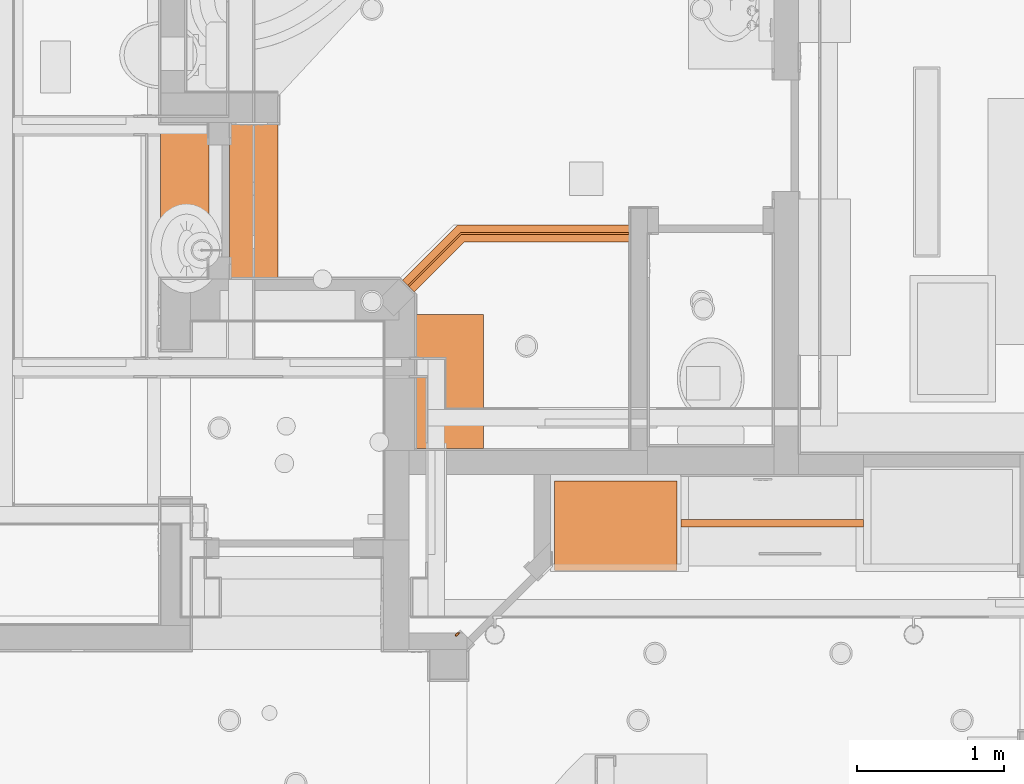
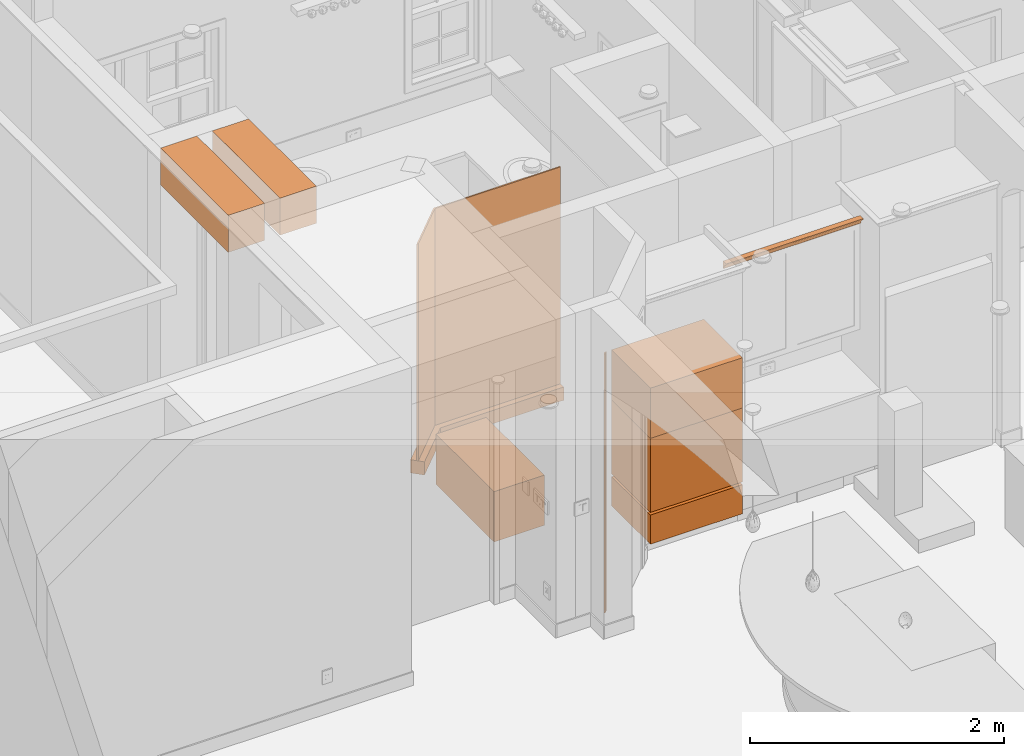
# One storey, part 61 of 81: 10 proxies.
"""IFC2X3 building model written with IfcOpenShell, lengths in feet."""

from ifc_helpers import new_model, entity, si_unit, converted_unit, derived_unit, direction, frame, frame_2d, origin, origin_2d_with_axis, place, context, subcontext, project, spatial, polyline, circle_curve, parameter, trimmed, segment, composite_curve, rectangle, outline, extrude, source, transform, mapped, material, type_object, type_shapes, element, save


model = new_model("IFC2X3")

# Units and contexts
model_context = context("Model", 3, precision=0.0001, world=origin(), true_north=direction((6.12303176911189e-17, 1.0)))
body_context = subcontext(model_context, "Body", "Model", "MODEL_VIEW")
ifc_project = project(units=[converted_unit("LENGTHUNIT", "FOOT", entity("IfcRatioMeasure", 0.3048), si_unit("LENGTHUNIT", "METRE"), dimensions=[1, 0, 0, 0, 0, 0, 0]), converted_unit("AREAUNIT", "SQUARE FOOT", entity("IfcRatioMeasure", 0.09290304), si_unit("AREAUNIT", "SQUARE_METRE"), dimensions=[2, 0, 0, 0, 0, 0, 0]), converted_unit("VOLUMEUNIT", "CUBIC FOOT", entity("IfcRatioMeasure", 0.028316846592), si_unit("VOLUMEUNIT", "CUBIC_METRE"), dimensions=[3, 0, 0, 0, 0, 0, 0]), converted_unit("PLANEANGLEUNIT", "DEGREE", entity("IfcRatioMeasure", 0.0174532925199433), si_unit("PLANEANGLEUNIT", "RADIAN"), dimensions=[0, 0, 0, 0, 0, 0, 0]), si_unit("MASSUNIT", "GRAM", prefix="KILO"), derived_unit("MASSDENSITYUNIT", [(si_unit("MASSUNIT", "GRAM", prefix="KILO"), 1), (si_unit("LENGTHUNIT", "METRE"), -3)]), derived_unit("MOMENTOFINERTIAUNIT", [(si_unit("LENGTHUNIT", "METRE"), 4)]), si_unit("TIMEUNIT", "SECOND"), si_unit("FREQUENCYUNIT", "HERTZ"), si_unit("THERMODYNAMICTEMPERATUREUNIT", "DEGREE_CELSIUS"), derived_unit("THERMALTRANSMITTANCEUNIT", [(si_unit("MASSUNIT", "GRAM", prefix="KILO"), 1), (si_unit("THERMODYNAMICTEMPERATUREUNIT", "KELVIN"), -1), (si_unit("TIMEUNIT", "SECOND"), -3)]), derived_unit("VOLUMETRICFLOWRATEUNIT", [(si_unit("LENGTHUNIT", "METRE"), 3), (si_unit("TIMEUNIT", "SECOND"), -1)]), si_unit("ELECTRICCURRENTUNIT", "AMPERE"), si_unit("ELECTRICVOLTAGEUNIT", "VOLT"), si_unit("POWERUNIT", "WATT"), si_unit("FORCEUNIT", "NEWTON"), si_unit("ILLUMINANCEUNIT", "LUX"), si_unit("LUMINOUSFLUXUNIT", "LUMEN"), si_unit("LUMINOUSINTENSITYUNIT", "CANDELA"), derived_unit("USERDEFINED", [(si_unit("MASSUNIT", "GRAM", prefix="KILO"), -1), (si_unit("LENGTHUNIT", "METRE"), -2), (si_unit("TIMEUNIT", "SECOND"), 3), (si_unit("LUMINOUSFLUXUNIT", "LUMEN"), 1)]), derived_unit("LINEARVELOCITYUNIT", [(si_unit("LENGTHUNIT", "METRE"), 1), (si_unit("TIMEUNIT", "SECOND"), -1)]), si_unit("PRESSUREUNIT", "PASCAL"), derived_unit("USERDEFINED", [(si_unit("LENGTHUNIT", "METRE"), -2), (si_unit("MASSUNIT", "GRAM", prefix="KILO"), 1), (si_unit("TIMEUNIT", "SECOND"), -2)]), derived_unit("LINEARFORCEUNIT", [(si_unit("MASSUNIT", "GRAM", prefix="KILO"), 1), (si_unit("LENGTHUNIT", "METRE"), 1), (si_unit("TIMEUNIT", "SECOND"), -2), (si_unit("LENGTHUNIT", "METRE"), -1)]), derived_unit("PLANARFORCEUNIT", [(si_unit("MASSUNIT", "GRAM", prefix="KILO"), 1), (si_unit("LENGTHUNIT", "METRE"), 1), (si_unit("TIMEUNIT", "SECOND"), -2), (si_unit("LENGTHUNIT", "METRE"), -2)])], contexts=[model_context])

# Site, building, storey
site_placement = place(None, origin())
site = spatial("IfcSite", under=ifc_project, at=site_placement, Name="Default", CompositionType="ELEMENT")
building_placement = place(site_placement, origin())
building = spatial("IfcBuilding", under=site, at=building_placement, CompositionType="ELEMENT")
storey_placement = place(building_placement, origin())
storey = spatial("IfcBuildingStorey", under=building, at=storey_placement, Name="First floor", CompositionType="ELEMENT", Elevation=0.0)

# Proxies
ifc_material_1 = material(Name="Glass")
building_element_proxy_type_1 = type_object("IfcBuildingElementProxyType", Name="Generic Models 3:Generic Models 3", PredefinedType="NOTDEFINED", material=ifc_material_1)
shared_shape_1 = source(origin(), body_context, "Body", "SweptSolid", [
    extrude(outline(polyline([(-0.851500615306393, 0.371026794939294), (2.89583875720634, 0.371026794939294), (2.89583875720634, 0.412693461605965), (-0.868759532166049, 0.412693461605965), (-2.05044007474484, -0.76898886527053), (-2.02097729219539, -0.798451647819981), (-0.851500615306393, 0.371026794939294)])), frame((1.27082790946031, 37.9623065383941, 11.0833333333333)), (0.0, 0.0, 1.0), 6.83333333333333),
])
type_shapes(building_element_proxy_type_1, [shared_shape_1])
proxy_1_placement = place(storey_placement, origin())
element("IfcBuildingElementProxy", 1, at=proxy_1_placement, inside=storey, type_object=building_element_proxy_type_1, material=ifc_material_1, Name="Generic Models 3:Generic Models 3", ObjectType="Generic Models 3:Generic Models 3", context=body_context, shape_type="MappedRepresentation", body=[
    mapped(shared_shape_1, transform((0.0, 0.0, 0.0), scale=1.0)),
])
ifc_material_2 = material(Name="Default New Material")
building_element_proxy_type_2 = type_object("IfcBuildingElementProxyType", Name="Generic Models 24:Generic Models 24", PredefinedType="NOTDEFINED", material=ifc_material_2)
shared_shape_2 = source(origin(), body_context, "Body", "SweptSolid", [
    extrude(outline(polyline([(-2.89583875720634, -0.579360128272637), (0.937795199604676, -0.579360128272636), (2.16829120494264, 0.651137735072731), (1.9031261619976, 0.916302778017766), (0.782464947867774, -0.204360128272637), (-2.89583875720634, -0.204360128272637), (-2.89583875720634, -0.579360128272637)])), frame((1.27082790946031, 37.9623065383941, 10.6666666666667), z_axis=(0.0, 0.0, 1.0), x_axis=(-1.0, 0.0, 0.0)), (0.0, 0.0, 1.0), 0.416666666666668),
])
type_shapes(building_element_proxy_type_2, [shared_shape_2])
proxy_2_placement = place(storey_placement, origin())
element("IfcBuildingElementProxy", 2, at=proxy_2_placement, inside=storey, type_object=building_element_proxy_type_2, material=ifc_material_2, Name="Generic Models 24:Generic Models 24", ObjectType="Generic Models 24:Generic Models 24", context=body_context, shape_type="MappedRepresentation", body=[
    mapped(shared_shape_2, transform((0.0, 0.0, 0.0), scale=1.0)),
])
building_element_proxy_type_3 = type_object("IfcBuildingElementProxyType", Name="Specialty Equipment_2:Specialty Equipment_2", PredefinedType="NOTDEFINED", material=ifc_material_2)
shared_shape_3 = source(origin(), body_context, "Body", "SweptSolid", [
    extrude(rectangle(XDim=2.75, YDim=2.0, at=origin_2d_with_axis()), frame((0.0, -1.0, 0.0), z_axis=(0.0, 0.0, 1.0), x_axis=(-1.0, 0.0, 0.0)), (0.0, 0.0, 1.0), 0.916666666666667),
])
type_shapes(building_element_proxy_type_3, [shared_shape_3])
proxy_3_placement = place(storey_placement, frame((3.87466285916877, 32.8125, 11.171875)))
element("IfcBuildingElementProxy", 3, at=proxy_3_placement, inside=storey, type_object=building_element_proxy_type_3, material=ifc_material_2, Name="Specialty Equipment_2:Specialty Equipment_2", ObjectType="Specialty Equipment_2:Specialty Equipment_2", context=body_context, shape_type="MappedRepresentation", body=[
    mapped(shared_shape_3, transform((0.0, 0.0, 0.0), scale=1.0)),
])
building_element_proxy_type_4 = type_object("IfcBuildingElementProxyType", Name="Specialty Equipment_2:Specialty Equipment_2", PredefinedType="NOTDEFINED", material=ifc_material_2)
shared_shape_4 = source(origin(), body_context, "Body", "SweptSolid", [
    extrude(rectangle(XDim=2.75, YDim=2.0, at=origin_2d_with_axis()), frame((0.0, -1.0, 0.0), z_axis=(0.0, 0.0, 1.0), x_axis=(-1.0, 0.0, 0.0)), (0.0, 0.0, 1.0), 2.33333333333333),
])
type_shapes(building_element_proxy_type_4, [shared_shape_4])
proxy_4_placement = place(storey_placement, frame((3.87466285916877, 32.8125, 12.171875)))
element("IfcBuildingElementProxy", 4, at=proxy_4_placement, inside=storey, type_object=building_element_proxy_type_4, material=ifc_material_2, Name="Specialty Equipment_2:Specialty Equipment_2", ObjectType="Specialty Equipment_2:Specialty Equipment_2", context=body_context, shape_type="MappedRepresentation", body=[
    mapped(shared_shape_4, transform((0.0, 0.0, 0.0), scale=1.0)),
])
building_element_proxy_type_5 = type_object("IfcBuildingElementProxyType", Name="Specialty Equipment_2:Specialty Equipment_2", PredefinedType="NOTDEFINED", material=ifc_material_2)
shared_shape_5 = source(origin(), body_context, "Body", "SweptSolid", [
    extrude(rectangle(XDim=2.75, YDim=2.0, at=origin_2d_with_axis()), frame((0.0, -1.0, 0.0), z_axis=(0.0, 0.0, 1.0), x_axis=(-1.0, 0.0, 0.0)), (0.0, 0.0, 1.0), 1.58333333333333),
])
type_shapes(building_element_proxy_type_5, [shared_shape_5])
proxy_5_placement = place(storey_placement, frame((3.87466285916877, 32.8125, 14.5052083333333)))
element("IfcBuildingElementProxy", 5, at=proxy_5_placement, inside=storey, type_object=building_element_proxy_type_5, material=ifc_material_2, Name="Specialty Equipment_2:Specialty Equipment_2", ObjectType="Specialty Equipment_2:Specialty Equipment_2", context=body_context, shape_type="MappedRepresentation", body=[
    mapped(shared_shape_5, transform((0.0, 0.0, 0.0), scale=1.0)),
])
building_element_proxy_type_6 = type_object("IfcBuildingElementProxyType", Name="Generic Models 36:Generic Models 28", PredefinedType="NOTDEFINED", material=ifc_material_2)
shared_shape_6 = source(origin(), body_context, "Body", "SweptSolid", [
    extrude(outline(composite_curve([segment(polyline([(-0.149999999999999, -0.0666666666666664), (0.100000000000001, -0.0666666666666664)]), True, "CONTINUOUS"), segment(polyline([(0.100000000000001, -0.0666666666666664), (0.100000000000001, 0.100000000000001)]), True, "CONTINUOUS"), segment(trimmed(circle_curve(frame_2d((0.111314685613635, 0.00791232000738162), x_axis=(0.0, -1.0)), 0.0927801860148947), [parameter(187.004744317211)], [parameter(240.375390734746)], True, "PARAMETER"), True, "CONTINUOUS"), segment(trimmed(circle_curve(frame_2d((-0.0988287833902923, 0.127409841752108), x_axis=(0.0, -1.0)), 0.148963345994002), [parameter(7.00474431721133)], [parameter(60.3753907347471)], True, "PARAMETER"), False, "CONTINUOUS"), segment(trimmed(circle_curve(frame_2d((-0.0693477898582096, -0.112529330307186), x_axis=(0.0, -1.0)), 0.0927801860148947), [parameter(187.004744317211)], [parameter(240.375390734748)], True, "PARAMETER"), True, "CONTINUOUS")], self_intersect=False)), frame((5.3329961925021, 31.8916666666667, 18.3166666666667), z_axis=(1.0, 0.0, 0.0), x_axis=(0.0, 0.0, 1.0)), (0.0, 0.0, 1.0), 4.08367047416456),
])
type_shapes(building_element_proxy_type_6, [shared_shape_6])
proxy_6_placement = place(storey_placement, origin())
element("IfcBuildingElementProxy", 6, at=proxy_6_placement, inside=storey, type_object=building_element_proxy_type_6, material=ifc_material_2, Name="Generic Models 36:Generic Models 28", ObjectType="Generic Models 36:Generic Models 28", context=body_context, shape_type="MappedRepresentation", body=[
    mapped(shared_shape_6, transform((0.0, 0.0, 0.0), scale=1.0)),
])
building_element_proxy_type_7 = type_object("IfcBuildingElementProxyType", Name="Generic Models 59:Generic Models 59", PredefinedType="NOTDEFINED", material=ifc_material_2)
shared_shape_7 = source(origin(), body_context, "Body", "SweptSolid", [
    extrude(rectangle(XDim=3.49965483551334, YDim=1.08333333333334, at=origin_2d_with_axis()), frame((-5.77083333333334, 39.08316075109, 19.5), z_axis=(0.0, 0.0, 1.0), x_axis=(0.0, 1.0, 0.0)), (0.0, 0.0, 1.0), 1.16666666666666),
])
type_shapes(building_element_proxy_type_7, [shared_shape_7])
proxy_7_placement = place(storey_placement, origin())
element("IfcBuildingElementProxy", 7, at=proxy_7_placement, inside=storey, type_object=building_element_proxy_type_7, material=ifc_material_2, Name="Generic Models 59:Generic Models 59", ObjectType="Generic Models 59:Generic Models 59", context=body_context, shape_type="MappedRepresentation", body=[
    mapped(shared_shape_7, transform((0.0, 0.0, 0.0), scale=1.0)),
])
building_element_proxy_type_8 = type_object("IfcBuildingElementProxyType", Name="Generic Models 60:Generic Models 59", PredefinedType="NOTDEFINED", material=ifc_material_2)
shared_shape_8 = source(origin(), body_context, "Body", "SweptSolid", [
    extrude(rectangle(XDim=3.49965483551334, YDim=1.08333333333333, at=frame_2d((0.0, -2.22044604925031e-16), x_axis=(1.0, 0.0))), frame((-4.22916666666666, 39.08316075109, 19.5), z_axis=(0.0, 0.0, 1.0), x_axis=(0.0, 1.0, 0.0)), (0.0, 0.0, 1.0), 1.16666666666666),
])
type_shapes(building_element_proxy_type_8, [shared_shape_8])
proxy_8_placement = place(storey_placement, origin())
element("IfcBuildingElementProxy", 8, at=proxy_8_placement, inside=storey, type_object=building_element_proxy_type_8, material=ifc_material_2, Name="Generic Models 60:Generic Models 59", ObjectType="Generic Models 60:Generic Models 59", context=body_context, shape_type="MappedRepresentation", body=[
    mapped(shared_shape_8, transform((0.0, 0.0, 0.0), scale=1.0)),
])
ifc_material_3 = material(Name="<Unnamed>")
building_element_proxy_type_9 = type_object("IfcBuildingElementProxyType", Name="Generic Models 62:Generic Models 62", PredefinedType="NOTDEFINED", material=ifc_material_3)
shared_shape_9 = source(origin(), body_context, "Body", "SweptSolid", [
    extrude(outline(polyline([(-0.0208333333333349, -0.0463514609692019), (0.0208333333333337, -0.0463514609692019), (0.0208333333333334, 0.0671847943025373), (-0.0208333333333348, 0.0255181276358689), (-0.0208333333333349, -0.0463514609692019)])), frame((0.324098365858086, 29.3838912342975, 10.6666666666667), z_axis=(0.0, 0.0, 1.0), x_axis=(0.707106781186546, -0.707106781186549, 0.0)), (0.0, 0.0, 1.0), 8.16666666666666),
])
type_shapes(building_element_proxy_type_9, [shared_shape_9])
proxy_9_placement = place(storey_placement, origin())
element("IfcBuildingElementProxy", 9, at=proxy_9_placement, inside=storey, type_object=building_element_proxy_type_9, material=ifc_material_3, Name="Generic Models 62:Generic Models 62", ObjectType="Generic Models 62:Generic Models 62", context=body_context, shape_type="MappedRepresentation", body=[
    mapped(shared_shape_9, transform((0.0, 0.0, 0.0), scale=1.0)),
])
building_element_proxy_type_10 = type_object("IfcBuildingElementProxyType", Name="Generic Models 68:Generic Models 68", PredefinedType="NOTDEFINED", material=ifc_material_2)
shared_shape_10 = source(origin(), body_context, "Body", "SweptSolid", [
    extrude(rectangle(XDim=3.0, YDim=1.5, at=frame_2d((0.0, -1.11022302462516e-16), x_axis=(1.0, 0.0))), frame((0.166666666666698, 35.0416666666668, 10.6666666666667), z_axis=(0.0, 0.0, 1.0), x_axis=(0.0, -1.0, 0.0)), (0.0, 0.0, 1.0), 1.58333333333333),
])
type_shapes(building_element_proxy_type_10, [shared_shape_10])
proxy_10_placement = place(storey_placement, origin())
element("IfcBuildingElementProxy", 10, at=proxy_10_placement, inside=storey, type_object=building_element_proxy_type_10, material=ifc_material_2, Name="Generic Models 68:Generic Models 68", ObjectType="Generic Models 68:Generic Models 68", context=body_context, shape_type="MappedRepresentation", body=[
    mapped(shared_shape_10, transform((0.0, 0.0, 0.0), scale=1.0)),
])

save(model, "model.ifc")
